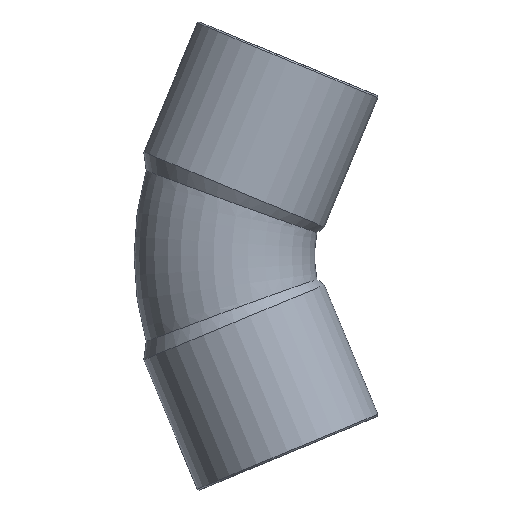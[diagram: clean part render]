
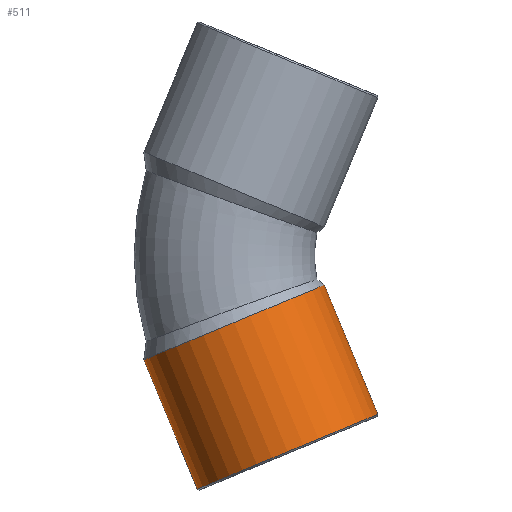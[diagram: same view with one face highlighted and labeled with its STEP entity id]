
A CAD part, front view. The second image highlights one B-rep face of the part: STEP entity #511.
In plain terms, the highlighted cylindrical face has radius 11.9 mm (diameter 23.8 mm), a partial arc.
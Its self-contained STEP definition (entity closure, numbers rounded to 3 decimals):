
#201=CARTESIAN_POINT('',(-31.782,0.,-12.646));
#202=VERTEX_POINT('',#201);
#209=CARTESIAN_POINT('',(-9.794,0.,-3.538));
#210=VERTEX_POINT('',#209);
#211=CARTESIAN_POINT('',(-20.788,0.,-8.092));
#212=DIRECTION('',(-0.383,0.,0.924));
#213=DIRECTION('',(0.924,0.0,0.383));
#214=AXIS2_PLACEMENT_3D('',#211,#212,#213);
#215=CIRCLE('',#214,11.9);
#216=EDGE_CURVE('',#202,#210,#215,.T.);
#480=CARTESIAN_POINT('',(-20.696,0.,-8.315));
#481=DIRECTION('',(0.383,0.,-0.924));
#482=DIRECTION('',(0.924,0.0,0.383));
#483=AXIS2_PLACEMENT_3D('',#480,#481,#482);
#484=CYLINDRICAL_SURFACE('',#483,11.9);
#485=CARTESIAN_POINT('',(-3.273,0.,-19.282));
#486=VERTEX_POINT('',#485);
#487=CARTESIAN_POINT('',(-9.794,0.,-3.538));
#488=DIRECTION('',(0.383,0.,-0.924));
#489=VECTOR('',#488,17.041);
#490=LINE('',#487,#489);
#491=EDGE_CURVE('',#210,#486,#490,.T.);
#492=ORIENTED_EDGE('',*,*,#491,.F.);
#493=ORIENTED_EDGE('',*,*,#216,.F.);
#494=CARTESIAN_POINT('',(-25.261,0.,-28.39));
#495=VERTEX_POINT('',#494);
#496=CARTESIAN_POINT('',(-25.261,0.,-28.39));
#497=DIRECTION('',(-0.383,0.,0.924));
#498=VECTOR('',#497,17.041);
#499=LINE('',#496,#498);
#500=EDGE_CURVE('',#495,#202,#499,.T.);
#501=ORIENTED_EDGE('',*,*,#500,.F.);
#502=CARTESIAN_POINT('',(-14.267,0.,-23.836));
#503=DIRECTION('',(0.383,0.,-0.924));
#504=DIRECTION('',(0.924,0.0,0.383));
#505=AXIS2_PLACEMENT_3D('',#502,#503,#504);
#506=CIRCLE('',#505,11.9);
#507=EDGE_CURVE('',#486,#495,#506,.T.);
#508=ORIENTED_EDGE('',*,*,#507,.F.);
#509=EDGE_LOOP('',(#492,#493,#501,#508));
#510=FACE_OUTER_BOUND('',#509,.T.);
#511=ADVANCED_FACE('',(#510),#484,.T.);
